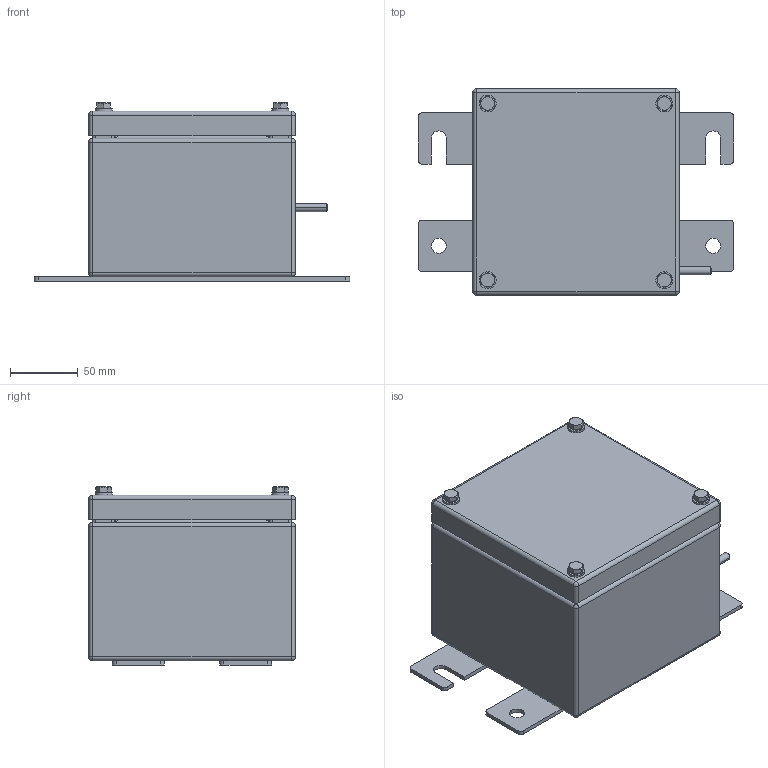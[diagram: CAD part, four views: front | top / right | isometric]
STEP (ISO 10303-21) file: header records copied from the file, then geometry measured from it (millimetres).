
FILE_DESCRIPTION (( 'STEP AP203' ), '1' );
FILE_NAME ('SX66.STEP', '2021-05-21T06:52:10', ( '' ), ( '' ), 'SwSTEP 2.0', 'SolidWorks 2020', '' );
FILE_SCHEMA (( 'CONFIG_CONTROL_DESIGN' ));
Length unit declared in the file: millimetre
Products named in the file (5): SX66 LID; SX66; hex screw gradec_bsi_BS EN 24018 - M6 x 20-WN; plain washer form a_bsi_Bright washer BS 4320 - M6 (Form A); SX66_4GP Body_0GP
Assembly tree (10 placements, depth 2):
  SX66
    SX66_4GP Body_0GP
    SX66 LID
    plain washer form a_bsi_Bright washer BS 4320 - M6 (Form A)  x4
    hex screw gradec_bsi_BS EN 24018 - M6 x 20-WN  x4
Bounding box: 232 x 152 x 130.97 mm (x, y, z)
Volume: 329236.3 mm3; surface area: 287863.1 mm2
Topology: 10 solids, 10 shells, 380 faces, 846 edges, 480 vertices
Faces by surface type: plane 164, cylinder 148, cone 36, sphere 28, bspline 4
Entity records: 8531 total; most frequent: CARTESIAN_POINT 1588, DIRECTION 1402, ORIENTED_EDGE 1228, EDGE_CURVE 614, AXIS2_PLACEMENT_3D 534, VERTEX_POINT 360, VECTOR 334, LINE 334
